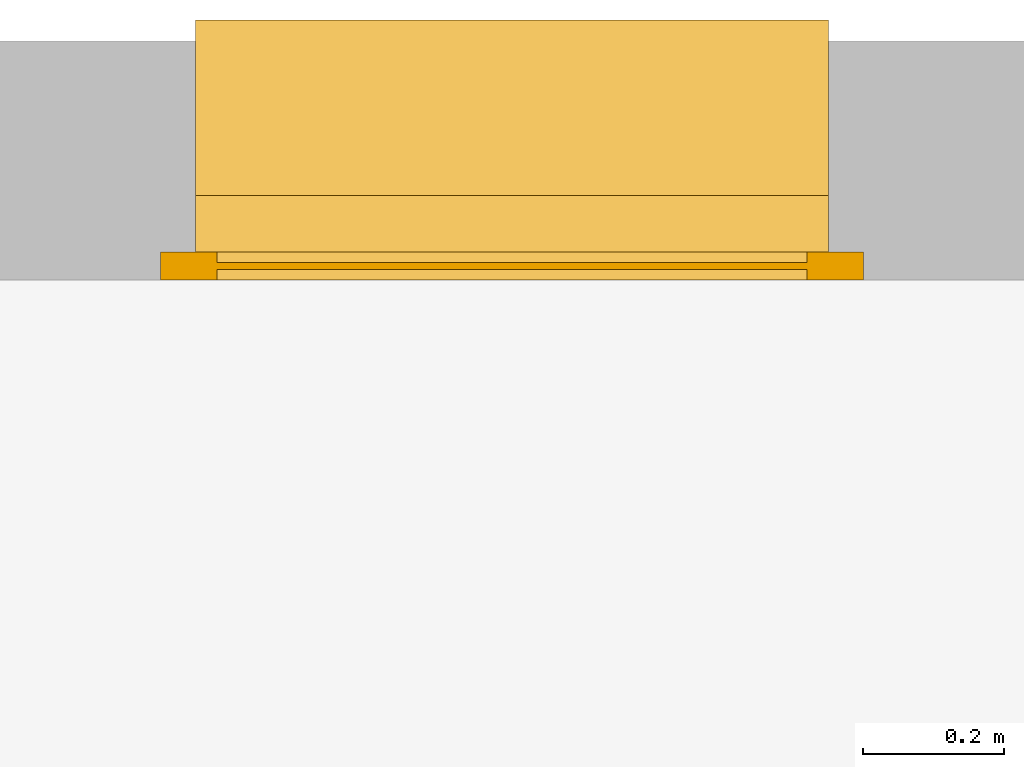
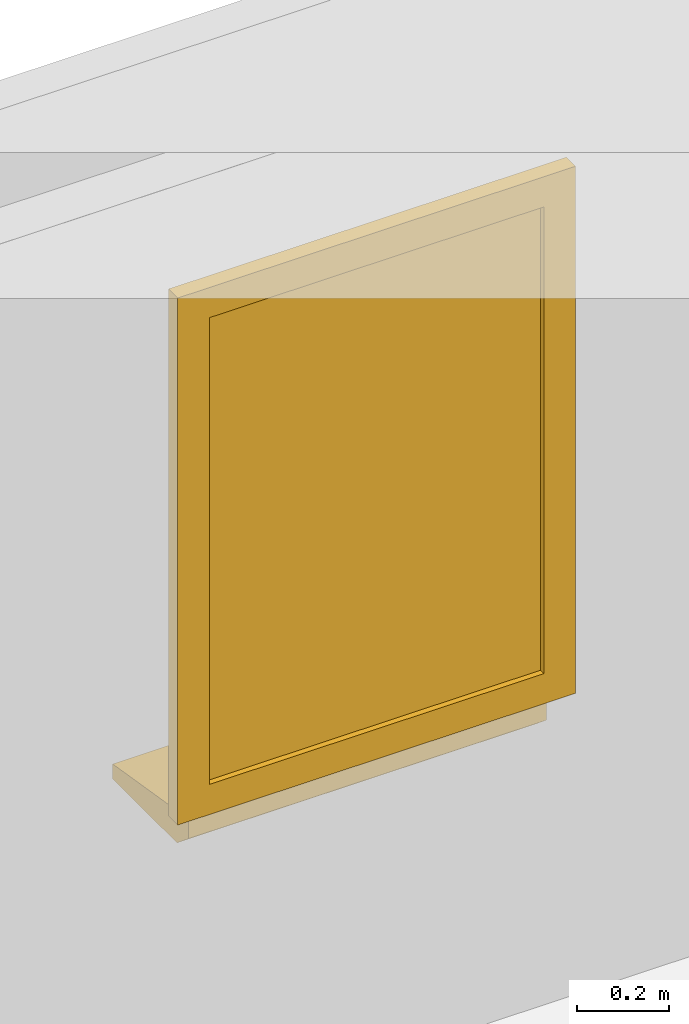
# One storey, part 13 of 14: 1 window.
"""IFC2X3 building model written with IfcOpenShell, lengths in millimetres."""

from ifc_helpers import new_model, entity, si_unit, converted_unit, direction, frame, origin, origin_with_axes, place, context, project, spatial, faceted_brep, element, save


model = new_model("IFC2X3")

# Units and contexts
model_context = context("Model", 3, precision=1e-05, world=origin(), true_north=direction((0.0, 1.0, 0.0)))
ifc_project = project(units=[si_unit("LENGTHUNIT", "METRE", prefix="MILLI"), si_unit("AREAUNIT", "SQUARE_METRE"), si_unit("VOLUMEUNIT", "CUBIC_METRE"), converted_unit("PLANEANGLEUNIT", "DEGREE", entity("IfcPlaneAngleMeasure", 0.01745), si_unit("PLANEANGLEUNIT", "RADIAN"), dimensions=[0, 0, 0, 0, 0, 0, 0]), si_unit("SOLIDANGLEUNIT", "STERADIAN"), si_unit("MASSUNIT", "GRAM"), si_unit("TIMEUNIT", "SECOND"), si_unit("THERMODYNAMICTEMPERATUREUNIT", "DEGREE_CELSIUS"), si_unit("LUMINOUSINTENSITYUNIT", "LUMEN")], contexts=[model_context])

# Site, building, storey
placement = place(None, origin_with_axes())
site_placement = place(placement, frame((11636.08881703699, 2815.7442167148, 4.768371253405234e-06), z_axis=(0.0, 0.0, 1.0), x_axis=(1.0, 0.0, 0.0)))
site = spatial("IfcSite", under=ifc_project, at=site_placement, Name="Surface", CompositionType="ELEMENT")
building_placement = place(placement, origin_with_axes())
building = spatial("IfcBuilding", under=site, at=building_placement, Name="Default Building", CompositionType="ELEMENT")
storey_placement = place(building_placement, origin_with_axes())
storey = spatial("IfcBuildingStorey", under=building, at=storey_placement, Name="Plan étage", CompositionType="ELEMENT", Elevation=0.0)

# Window
window_placement = place(storey_placement, frame((11636.08881703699, 2815.7442167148, 4.768371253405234e-06), z_axis=(0.0, 0.0, 1.0), x_axis=(1.0, 0.0, 0.0)))
element("IfcWindow", 1, at=window_placement, inside=storey, Name="IfcWindow - FR_1  Vantail Appui Béton:90x135", context=model_context, shape_type="Brep", body=[
    faceted_brep([(333.9111680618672, 5359.254523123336, 4859.943730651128), (-506.0888057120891, 5369.277170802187, 4859.943730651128), (-506.0888057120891, 5359.254523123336, 4859.943730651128), (333.9111680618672, 5369.277170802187, 4859.943730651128), (-506.0888057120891, 5359.254523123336, 3619.999987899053), (333.9111680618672, 5369.277170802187, 3619.999987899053), (333.9111680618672, 5359.254523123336, 3619.999987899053), (-506.0888057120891, 5369.277170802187, 3619.999987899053), (363.9111692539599, 5464.255781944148, 3558.350367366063), (363.9111692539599, 5384.255783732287, 3540.000004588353), (363.9111692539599, 5464.255781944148, 3540.000004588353), (363.9111692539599, 5384.255783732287, 3575.329942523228), (-536.088806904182, 5464.255781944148, 3540.000004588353), (-536.088806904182, 5384.255783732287, 3575.329942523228), (-536.088806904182, 5464.255781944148, 3558.350367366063), (-536.088806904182, 5384.255783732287, 3540.000004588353), (413.9111811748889, 5384.255783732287, 4939.943713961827), (333.9111680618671, 5384.255783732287, 4859.943730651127), (-586.0888188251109, 5384.255783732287, 4939.943713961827), (333.9111680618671, 5384.255783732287, 3619.999987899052), (413.9111811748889, 5384.255783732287, 3540.000004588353), (-506.0888057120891, 5384.255783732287, 3619.999987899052), (-506.0888057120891, 5384.255783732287, 4859.943730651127), (-586.0888188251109, 5384.255783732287, 3540.000004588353), (-586.0888188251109, 5344.255784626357, 4939.943713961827), (-506.0888057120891, 5344.255784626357, 4859.943730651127), (413.9111811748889, 5344.255784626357, 4939.943713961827), (-506.0888057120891, 5344.255784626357, 3619.999987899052), (-586.0888188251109, 5344.255784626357, 3540.000004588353), (333.9111680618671, 5344.255784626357, 3619.999987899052), (333.9111680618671, 5344.255784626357, 4859.943730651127), (413.9111811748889, 5344.255784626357, 3540.000004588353), (363.9111692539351, 5714.255789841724, 3420.576363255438), (363.9111692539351, 5434.255781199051, 3506.120806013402), (363.9111692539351, 5434.255781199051, 3420.576363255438), (363.9111692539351, 5714.255789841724, 3460.275791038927), (363.9111692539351, 5384.255776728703, 3539.999998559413), (363.9111692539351, 5384.255776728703, 3462.110744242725), (363.9111692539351, 5434.255781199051, 3539.999998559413), (-536.0888069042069, 5434.255781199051, 3420.576363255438), (-536.0888069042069, 5714.255789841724, 3460.275791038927), (-536.0888069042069, 5714.255789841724, 3420.576363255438), (-536.0888069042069, 5434.255781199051, 3506.120806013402), (-536.0888069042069, 5384.255776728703, 3462.110744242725), (-536.0888069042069, 5434.255781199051, 3539.999998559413), (-536.0888069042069, 5384.255776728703, 3539.999998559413)], [[[0, 1, 2]], [[0, 3, 1]], [[4, 5, 6]], [[4, 7, 5]], [[3, 6, 5]], [[3, 0, 6]], [[1, 5, 7]], [[1, 3, 5]], [[2, 7, 4]], [[2, 1, 7]], [[0, 4, 6]], [[0, 2, 4]], [[8, 9, 10]], [[8, 11, 9]], [[12, 13, 14]], [[12, 15, 13]], [[11, 14, 13]], [[11, 8, 14]], [[9, 13, 15]], [[9, 11, 13]], [[10, 15, 12]], [[10, 9, 15]], [[8, 12, 14]], [[8, 10, 12]], [[16, 17, 18]], [[16, 19, 17]], [[19, 20, 21]], [[20, 19, 16]], [[22, 18, 17]], [[21, 18, 22]], [[21, 23, 18]], [[23, 21, 20]], [[24, 25, 26]], [[24, 27, 25]], [[27, 28, 29]], [[28, 27, 24]], [[30, 26, 25]], [[29, 26, 30]], [[29, 31, 26]], [[31, 29, 28]], [[21, 25, 27]], [[21, 22, 25]], [[19, 27, 29]], [[19, 21, 27]], [[17, 29, 30]], [[17, 19, 29]], [[22, 30, 25]], [[22, 17, 30]], [[18, 28, 24]], [[18, 23, 28]], [[16, 24, 26]], [[16, 18, 24]], [[20, 26, 31]], [[20, 16, 26]], [[23, 31, 28]], [[23, 20, 31]], [[32, 33, 34]], [[33, 32, 35]], [[34, 36, 37]], [[33, 36, 34]], [[36, 33, 38]], [[39, 40, 41]], [[39, 42, 40]], [[43, 44, 39]], [[44, 43, 45]], [[36, 44, 45]], [[36, 38, 44]], [[37, 45, 43]], [[37, 36, 45]], [[34, 43, 39]], [[34, 37, 43]], [[32, 39, 41]], [[32, 34, 39]], [[35, 41, 40]], [[35, 32, 41]], [[33, 40, 42]], [[33, 35, 40]], [[38, 42, 44]], [[38, 33, 42]]]),
])

save(model, "model.ifc")
